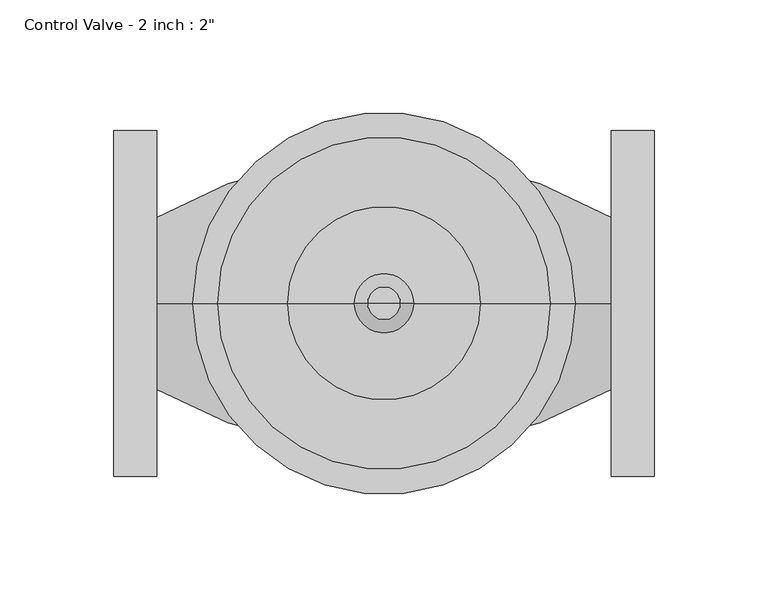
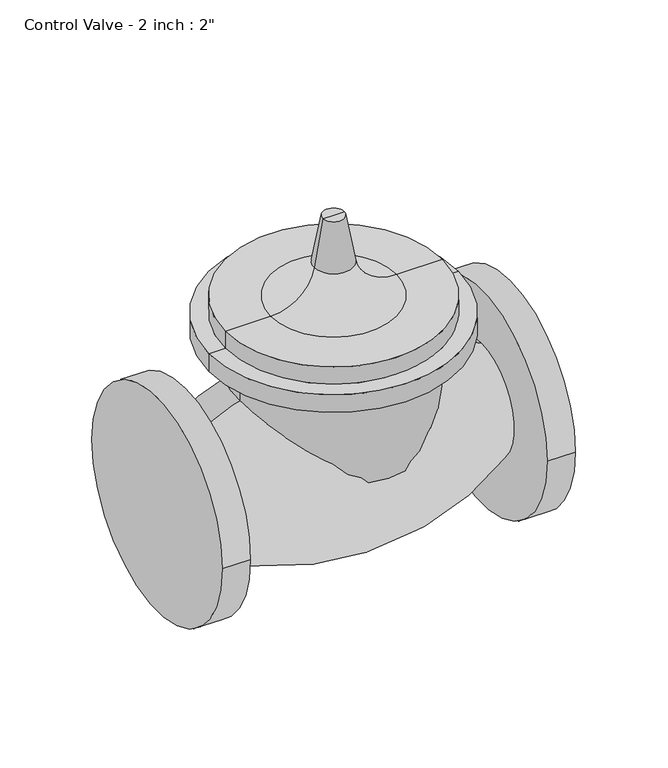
"""IFC4 building model written with IfcOpenShell, lengths in millimetres: valve geometry."""

from ifc_helpers import new_model, si_unit, point, frame, origin, origin_with_axes, origin_2d, place, context, project, spatial, polyline, circle_curve, ellipse_curve, trimmed, segment, composite_curve, outline, extrude, source, transform, mapped, element, save
from ifc_brep_helpers import plane_surface, cylinder_surface, revolved_surface, advanced_brep


def valve_af1d91c3(model_context):
    return source(origin(), model_context, "Body", "SolidModel", [
        extrude(outline(composite_curve([segment(trimmed(circle_curve(origin_2d(), 76.2), [point((-76.2, 0.0))], [point((76.2, 0.0))], False, "CARTESIAN"), True, "CONTINUOUS"), segment(trimmed(circle_curve(origin_2d(), 76.2), [point((76.2, 0.0))], [point((-76.2, 0.0))], False, "CARTESIAN"), True, "CONTINUOUS")], self_intersect=False)), frame((-119.1617187, 0.0, 0.0), z_axis=(1.0, 0.0, 0.0), x_axis=(0.0, 1.0, 0.0)), (0.0, 0.0, 1.0), 19.05),
        extrude(outline(composite_curve([segment(trimmed(circle_curve(origin_2d(), 76.2), [point((-76.2, 0.0))], [point((76.2, 0.0))], False, "CARTESIAN"), True, "CONTINUOUS"), segment(trimmed(circle_curve(origin_2d(), 76.2), [point((76.2, 0.0))], [point((-76.2, 0.0))], False, "CARTESIAN"), True, "CONTINUOUS")], self_intersect=False)), frame((100.1117188, 0.0, 0.0), z_axis=(1.0, 0.0, 0.0), x_axis=(0.0, 1.0, 0.0)), (0.0, 0.0, 1.0), 19.05),
        advanced_brep(
        [(100.1117188, 0.0, 0.0), (100.1117188, 0.0, -38.1), (100.1117188, 0.0, 38.1), (-100.1117187, 0.0, 38.1), (-100.1117187, 0.0, -38.1), (-100.1117187, 0.0, 0.0)],
        [
            (0, 1),
            (1, 2, circle_curve(frame((100.1117188, 0.0, 0.0), z_axis=(1.0, 0.0, 0.0), x_axis=(0.0, 0.0, -1.0)), 38.1)),
            (2, 0),
            (2, 1, circle_curve(frame((100.1117188, 0.0, 0.0), z_axis=(1.0, 0.0, 0.0), x_axis=(0.0, 0.0, -1.0)), 38.1)),
            (3, 4, circle_curve(frame((-100.1117187, 0.0, 0.0), z_axis=(-1.0, 0.0, 0.0), x_axis=(0.0, 0.0, -1.0)), 38.1)),
            (4, 5),
            (5, 3),
            (4, 3, circle_curve(frame((-100.1117187, 0.0, 0.0), z_axis=(-1.0, 0.0, 0.0), x_axis=(0.0, 0.0, -1.0)), 38.1)),
            (1, 4, circle_curve(frame((0.0, 0.0, 133.3226504), z_axis=(0.0, 1.0, 0.0), x_axis=(1.0, 0.0, 0.0)), 198.5146879)),
            (3, 2, circle_curve(frame((0.0, 0.0, -133.3226504), z_axis=(0.0, 1.0, 0.0), x_axis=(1.0, 0.0, 0.0)), 198.5146879)),
        ],
        [
            plane_surface(frame((100.1117188, 0.0, 0.0), z_axis=(1.0, 0.0, 0.0), x_axis=(0.0, 0.0, -1.0))),
            plane_surface(frame((-100.1117187, 0.0, 0.0), z_axis=(-1.0, 0.0, 0.0), x_axis=(0.0, 0.0, -1.0))),
            revolved_surface(trimmed(ellipse_curve(frame((0.0, 0.0, 133.3226504), z_axis=(0.0, -1.0, 0.0), x_axis=(1.0, 0.0, 0.0)), 198.5146879, 198.5146879), [point((-100.1117187, 0.0, -38.1))], [point((100.1117188, 0.0, -38.1))], True, "CARTESIAN"), (-412.75, 0.0, 0.0), (1.0, 0.0, 0.0)),
        ],
        [
            (0, [[1, 2, 3]]),
            (0, [[-3, 4, -1]]),
            (1, [[5, 6, 7]]),
            (1, [[8, -7, -6]]),
            (2, [[-2, 9, -5, 10]]),
            (2, [[-4, -10, -8, -9]]),
        ],
    ),
        advanced_brep(
        [(-63.4917669, 0.0, 82.55), (63.4917669, 0.0, 82.55), (63.4917669, 0.0, 0.0), (-63.4917669, 0.0, 0.0), (-84.1550112, 0.0, 82.55), (84.1550112, 0.0, 82.55), (-84.1550112, 0.0, 95.25), (84.1550112, 0.0, 95.25), (-73.2233914, 0.0, 95.25), (73.2233914, 0.0, 95.25), (-73.2233914, 0.0, 107.3998489), (73.2233914, 0.0, 107.3998489), (-42.6534946, 0.0, 107.3998489), (42.6534946, 0.0, 107.3998489), (0.0, 0.0, 0.0), (-7.2106688, 0.0, 164.6598809), (7.2106688, 0.0, 164.6598809), (12.9992004, 0.0, 131.8314868), (-12.9992004, 0.0, 131.8314868), (0.0, 0.0, 164.6598809)],
        [
            (0, 1, circle_curve(frame((0.0, 0.0, 82.55), z_axis=(0.0, 0.0, -1.0), x_axis=(1.0, 0.0, 0.0)), 63.4917669)),
            (1, 2),
            (2, 3, circle_curve(origin_with_axes(), 63.4917669)),
            (3, 0),
            (1, 0, circle_curve(frame((0.0, 0.0, 82.55), z_axis=(0.0, 0.0, -1.0), x_axis=(1.0, 0.0, 0.0)), 63.4917669)),
            (3, 2, circle_curve(origin_with_axes(), 63.4917669)),
            (4, 5, circle_curve(frame((0.0, 0.0, 82.55), z_axis=(0.0, 0.0, -1.0), x_axis=(1.0, 0.0, 0.0)), 84.1550112)),
            (5, 1),
            (0, 4),
            (5, 4, circle_curve(frame((0.0, 0.0, 82.55), z_axis=(0.0, 0.0, -1.0), x_axis=(1.0, 0.0, 0.0)), 84.1550112)),
            (6, 7, circle_curve(frame((0.0, 0.0, 95.25), z_axis=(0.0, 0.0, -1.0), x_axis=(1.0, 0.0, 0.0)), 84.1550112)),
            (7, 5),
            (4, 6),
            (7, 6, circle_curve(frame((0.0, 0.0, 95.25), z_axis=(0.0, 0.0, -1.0), x_axis=(1.0, 0.0, 0.0)), 84.1550112)),
            (8, 9, circle_curve(frame((0.0, 0.0, 95.25), z_axis=(0.0, 0.0, -1.0), x_axis=(1.0, 0.0, 0.0)), 73.2233914)),
            (9, 7),
            (6, 8),
            (9, 8, circle_curve(frame((0.0, 0.0, 95.25), z_axis=(0.0, 0.0, -1.0), x_axis=(1.0, 0.0, 0.0)), 73.2233914)),
            (10, 11, circle_curve(frame((0.0, 0.0, 107.3998489), z_axis=(0.0, 0.0, -1.0), x_axis=(1.0, 0.0, 0.0)), 73.2233914)),
            (11, 9),
            (8, 10),
            (11, 10, circle_curve(frame((0.0, 0.0, 107.3998489), z_axis=(0.0, 0.0, -1.0), x_axis=(1.0, 0.0, 0.0)), 73.2233914)),
            (12, 13, circle_curve(frame((0.0, 0.0, 107.3998489), z_axis=(0.0, 0.0, -1.0), x_axis=(1.0, 0.0, 0.0)), 42.6534946)),
            (13, 11),
            (10, 12),
            (13, 12, circle_curve(frame((0.0, 0.0, 107.3998489), z_axis=(0.0, 0.0, -1.0), x_axis=(1.0, 0.0, 0.0)), 42.6534946)),
            (2, 14),
            (14, 3),
            (15, 16, circle_curve(frame((0.0, 0.0, 164.6598809), z_axis=(0.0, 0.0, -1.0), x_axis=(1.0, 0.0, 0.0)), 7.2106688)),
            (16, 17),
            (17, 18, circle_curve(frame((0.0, 0.0, 131.8314868), z_axis=(0.0, 0.0, 1.0), x_axis=(1.0, 0.0, 0.0)), 12.9992004)),
            (18, 15),
            (16, 15, circle_curve(frame((0.0, 0.0, 164.6598809), z_axis=(0.0, 0.0, -1.0), x_axis=(1.0, 0.0, 0.0)), 7.2106688)),
            (18, 17, circle_curve(frame((0.0, 0.0, 131.8314868), z_axis=(0.0, 0.0, 1.0), x_axis=(1.0, 0.0, 0.0)), 12.9992004)),
            (19, 16),
            (15, 19),
            (17, 13, circle_curve(frame((42.1213982, 0.0, 136.966516), z_axis=(0.0, -1.0, 0.0), x_axis=(1.0, 0.0, 0.0)), 29.5714546)),
            (12, 18, circle_curve(frame((-42.1213982, 0.0, 136.966516), z_axis=(0.0, -1.0, 0.0), x_axis=(-1.0, 0.0, 0.0)), 29.5714546)),
        ],
        [
            cylinder_surface(origin_with_axes(), 63.4917669),
            plane_surface(frame((0.0, 0.0, 82.55), z_axis=(0.0, 0.0, -1.0), x_axis=(1.0, 0.0, 0.0))),
            cylinder_surface(origin_with_axes(), 84.1550112),
            plane_surface(frame((0.0, 0.0, 95.25), z_axis=(0.0, 0.0, 1.0), x_axis=(1.0, 0.0, 0.0))),
            cylinder_surface(origin_with_axes(), 73.2233914),
            plane_surface(frame((0.0, 0.0, 107.3998489), z_axis=(0.0, 0.0, 1.0), x_axis=(1.0, 0.0, 0.0))),
            plane_surface(frame((0.0, 0.0, 0.0), z_axis=(0.0, 0.0, -1.0), x_axis=(1.0, 0.0, 0.0))),
            revolved_surface(polyline([(12.9992004, 0.0, 131.8314868), (7.2106688, 0.0, 164.6598809)]), (0.0, 0.0, 0.0), (0.0, 0.0, 1.0)),
            plane_surface(frame((0.0, 0.0, 164.6598809), z_axis=(0.0, 0.0, 1.0), x_axis=(1.0, 0.0, 0.0))),
            revolved_surface(trimmed(ellipse_curve(frame((42.1213982, 0.0, 136.966516), z_axis=(0.0, 1.0, 0.0), x_axis=(1.0, 0.0, 0.0)), 29.5714546, 29.5714546), [point((42.6534946, 0.0, 107.3998489))], [point((12.9992004, 0.0, 131.8314868))], True, "CARTESIAN"), (0.0, 0.0, 0.0), (0.0, 0.0, 1.0)),
        ],
        [
            (0, [[1, 2, 3, 4]]),
            (0, [[5, -4, 6, -2]]),
            (1, [[7, 8, -1, 9]]),
            (1, [[10, -9, -5, -8]]),
            (2, [[11, 12, -7, 13]]),
            (2, [[14, -13, -10, -12]]),
            (3, [[15, 16, -11, 17]]),
            (3, [[18, -17, -14, -16]]),
            (4, [[19, 20, -15, 21]]),
            (4, [[22, -21, -18, -20]]),
            (5, [[23, 24, -19, 25]]),
            (5, [[26, -25, -22, -24]]),
            (6, [[-3, 27, 28]]),
            (6, [[-6, -28, -27]]),
            (7, [[29, 30, 31, 32]]),
            (7, [[33, -32, 34, -30]]),
            (8, [[35, -29, 36]]),
            (8, [[-36, -33, -35]]),
            (9, [[-31, 37, -23, 38]]),
            (9, [[-34, -38, -26, -37]]),
        ],
    ),
    ])


if __name__ == "__main__":
    model = new_model("IFC4")
    model_context = context("Model", 3, world=origin())
    ifc_project = project(units=[si_unit("LENGTHUNIT", "METRE", prefix="MILLI")], contexts=[model_context])
    site = spatial("IfcSite", under=ifc_project)
    building = spatial("IfcBuilding", under=site)
    placement = place(None, origin())
    valve_shape = valve_af1d91c3(model_context)
    element("IfcValve", 1, ObjectType="Control Valve - 2 inch : 2\"", at=placement, inside=building, context=model_context, shape_type="MappedRepresentation", body=[
        mapped(valve_shape, transform((0.0, 0.0, 0.0), x_axis=(1.0, 0.0, 0.0), y_axis=(0.0, 1.0, 0.0), z_axis=(0.0, 0.0, 1.0))),
    ])
    save(model, "model.ifc")
